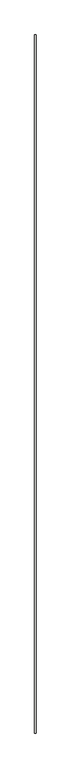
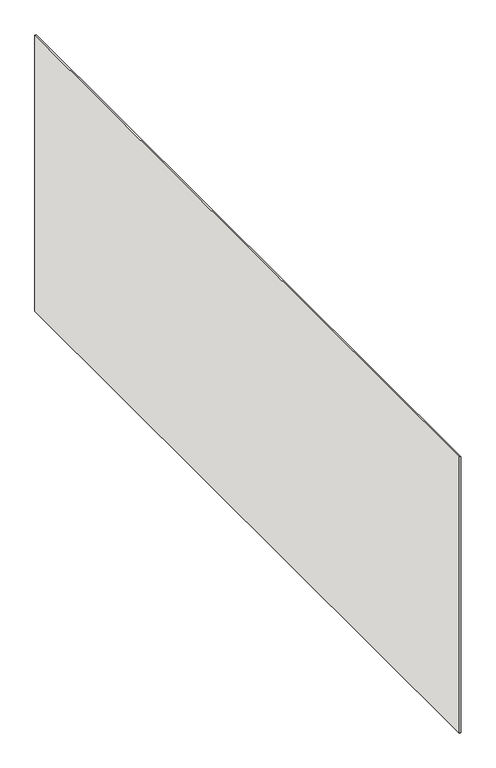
"""IFC4 building model written with IfcOpenShell, lengths in millimetres: covering geometry, 天井 2 : 天井 1."""

from ifc_helpers import new_model, si_unit, frame, origin, place, context, project, spatial, polyline, outline, extrude, source, transform, mapped, element, save


def covering_536f3d13(model_context):
    return source(origin(), model_context, "Body", "SweptSolid", [
        extrude(outline(polyline([(15338.9999956, 6804.5), (15334.9999956, 6804.5), (15335.0, 8789.9999902), (15339.0, 8789.9999902), (15338.9999956, 6804.5)])), frame((0.0, 0.0, 954.0), z_axis=(0.0, 0.0, 1.0), x_axis=(1.0, 0.0, 0.0)), (0.0, 0.0, 1.0), 788.5),
    ])


if __name__ == "__main__":
    model = new_model("IFC4")
    model_context = context("Model", 3, world=origin())
    ifc_project = project(units=[si_unit("LENGTHUNIT", "METRE", prefix="MILLI")], contexts=[model_context])
    site = spatial("IfcSite", under=ifc_project)
    building = spatial("IfcBuilding", under=site)
    placement = place(None, origin())
    covering_shape = covering_536f3d13(model_context)
    element("IfcCovering", 1, ObjectType="天井 2 : 天井 1", at=placement, inside=building, context=model_context, shape_type="MappedRepresentation", body=[
        mapped(covering_shape, transform((0.0, 0.0, 0.0), x_axis=(1.0, 0.0, 0.0), y_axis=(0.0, 1.0, 0.0), z_axis=(0.0, 0.0, 1.0))),
    ])
    save(model, "model.ifc")
